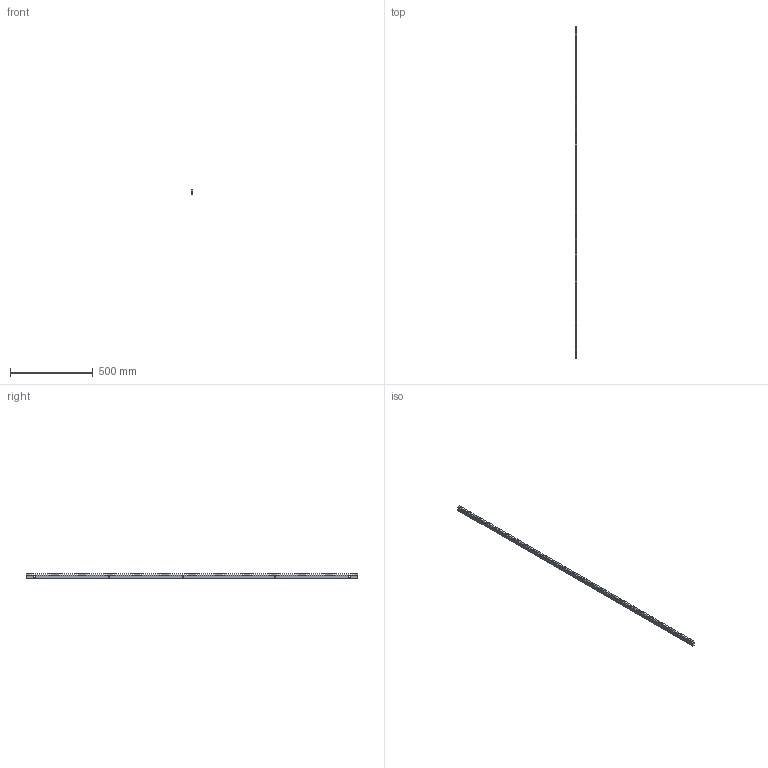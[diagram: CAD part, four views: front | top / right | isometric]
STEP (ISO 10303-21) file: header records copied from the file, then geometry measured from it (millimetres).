
FILE_DESCRIPTION( ( 'Unknown' ), '1' );
FILE_NAME( 'I:/Area_Tecnica/SolidEdge/Archivio/In_Lavoro/DaApprovare/stazione_15/STP/FAC_VA6200.002.stp', 'Unknown', ( 'Unknown' ), ( 'Unknown' ), 'PSStep 17.0.49', 'Unknown', ' ' );
FILE_SCHEMA( ( 'AUTOMOTIVE_DESIGN { 1 0 10303 214 1 1 1 1 }' ) );
Length unit declared in the file: millimetre
Products named in the file (1): 900 T01 630_ZF2_00
Bounding box: 12 x 2010 x 30 mm (x, y, z)
Volume: 615683.4 mm3; surface area: 177699.3 mm2
Topology: 1 solids, 1 shells, 666 faces, 1992 edges, 1328 vertices
Faces by surface type: plane 656, cylinder 10
Entity records: 27320 total; most frequent: CARTESIAN_POINT 3987, ORIENTED_EDGE 3984, DIRECTION 3346, EDGE_CURVE 1992, LINE 1972, VECTOR 1972, VERTEX_POINT 1328, AXIS2_PLACEMENT_3D 687
